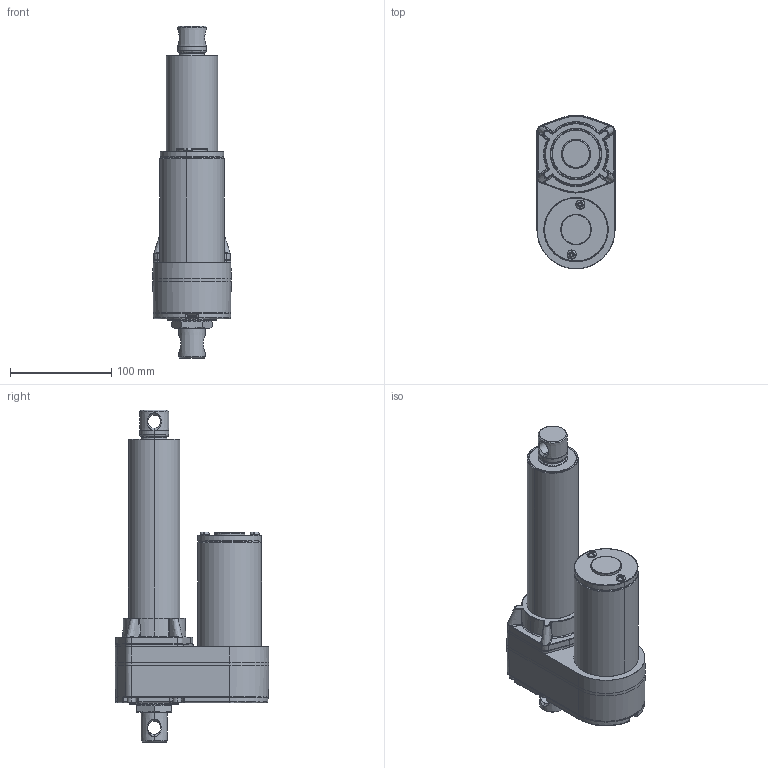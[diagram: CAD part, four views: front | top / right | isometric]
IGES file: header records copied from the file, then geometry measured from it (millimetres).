
Start section: SolidWorks IGES file using analytic representation for surfaces
Global section: file name: C:\Users\lynn\Desktop\工作用資料夾\3D CAD Models Community\ID10(over)\新增IP69\ID10\3D\ID10-B-102-IP69K\ID10-B-102-IP69K.IGS; native system: SolidWorks 2020; preprocessor: SolidWorks 2020; author: lynn; date: 221005.085701; units: millimetre
Bounding box: 77.3 x 151.8 x 327.5 mm (x, y, z)
Surface area: 154146.5 mm2 (no closed solid volume)
Topology: 0 solids, 0 shells, 1520 faces, 15257 edges, 15209 vertices
Faces by surface type: bspline 982, revolution 538
